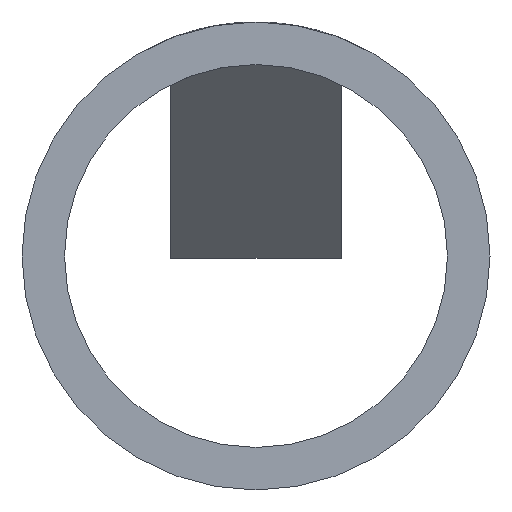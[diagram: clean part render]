
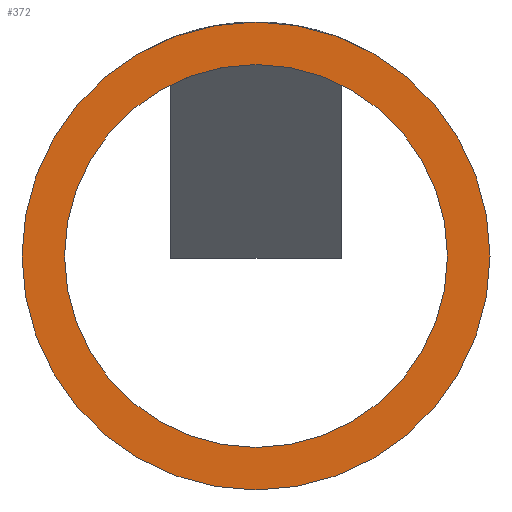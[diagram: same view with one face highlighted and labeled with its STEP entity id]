
A CAD part, front view. The second image highlights one B-rep face of the part: STEP entity #372.
In plain terms, the highlighted planar face has unit normal (0, -1, 0).
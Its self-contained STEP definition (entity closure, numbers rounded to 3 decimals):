
#15 = AXIS2_PLACEMENT_3D ( 'NONE', #250, #298, #299 ) ;
#38 = FACE_BOUND ( 'NONE', #423, .T. ) ;
#39 = FACE_OUTER_BOUND ( 'NONE', #429, .T. ) ;
#71 = CIRCLE ( 'NONE', #137, 4.5 ) ;
#88 = CIRCLE ( 'NONE', #143, 5.5 ) ;
#93 = VERTEX_POINT ( 'NONE', #202 ) ;
#99 = EDGE_CURVE ( 'NONE', #385, #93, #71, .T. ) ;
#112 = CARTESIAN_POINT ( 'NONE',  ( 0., 0., 0. ) ) ;
#137 = AXIS2_PLACEMENT_3D ( 'NONE', #185, #187, #188 ) ;
#143 = AXIS2_PLACEMENT_3D ( 'NONE', #312, #249, #248 ) ;
#151 = AXIS2_PLACEMENT_3D ( 'NONE', #273, #345, #343 ) ;
#156 = AXIS2_PLACEMENT_3D ( 'NONE', #112, #327, #316 ) ;
#185 = CARTESIAN_POINT ( 'NONE',  ( 0., 0., 0. ) ) ;
#187 = DIRECTION ( 'NONE',  ( 0., -1., 0. ) ) ;
#188 = DIRECTION ( 'NONE',  ( -1., 0., 0. ) ) ;
#202 = CARTESIAN_POINT ( 'NONE',  ( 4.5, 0., 0. ) ) ;
#248 = DIRECTION ( 'NONE',  ( -1., 0., 0. ) ) ;
#249 = DIRECTION ( 'NONE',  ( 0., -1., 0. ) ) ;
#250 = CARTESIAN_POINT ( 'NONE',  ( 0., 0., 0. ) ) ;
#254 = CARTESIAN_POINT ( 'NONE',  ( -4.5, 0., 0. ) ) ;
#273 = CARTESIAN_POINT ( 'NONE',  ( 0., 0., 0. ) ) ;
#298 = DIRECTION ( 'NONE',  ( 0., -1., 0. ) ) ;
#299 = DIRECTION ( 'NONE',  ( -1., 0., 0. ) ) ;
#312 = CARTESIAN_POINT ( 'NONE',  ( 0., 0., 0. ) ) ;
#313 = CARTESIAN_POINT ( 'NONE',  ( 5.5, 0., 0. ) ) ;
#316 = DIRECTION ( 'NONE',  ( -1., 0., 0. ) ) ;
#321 = CARTESIAN_POINT ( 'NONE',  ( -5.5, 0., 0. ) ) ;
#327 = DIRECTION ( 'NONE',  ( 0., -1., 0. ) ) ;
#343 = DIRECTION ( 'NONE',  ( -1., 0., 0. ) ) ;
#345 = DIRECTION ( 'NONE',  ( 0., -1., 0. ) ) ;
#347 = PLANE ( 'NONE',  #151 ) ;
#364 = EDGE_CURVE ( 'NONE', #395, #381, #491, .T. ) ;
#372 = ADVANCED_FACE ( 'NONE', ( #39, #38 ), #347, .T. ) ;
#381 = VERTEX_POINT ( 'NONE', #313 ) ;
#385 = VERTEX_POINT ( 'NONE', #254 ) ;
#395 = VERTEX_POINT ( 'NONE', #321 ) ;
#423 = EDGE_LOOP ( 'NONE', ( #451, #444 ) ) ;
#429 = EDGE_LOOP ( 'NONE', ( #458, #439 ) ) ;
#439 = ORIENTED_EDGE ( 'NONE', *, *, #364, .T. ) ;
#444 = ORIENTED_EDGE ( 'NONE', *, *, #99, .F. ) ;
#451 = ORIENTED_EDGE ( 'NONE', *, *, #482, .F. ) ;
#458 = ORIENTED_EDGE ( 'NONE', *, *, #477, .T. ) ;
#477 = EDGE_CURVE ( 'NONE', #381, #395, #88, .T. ) ;
#482 = EDGE_CURVE ( 'NONE', #93, #385, #489, .T. ) ;
#489 = CIRCLE ( 'NONE', #15, 4.5 ) ;
#491 = CIRCLE ( 'NONE', #156, 5.5 ) ;
